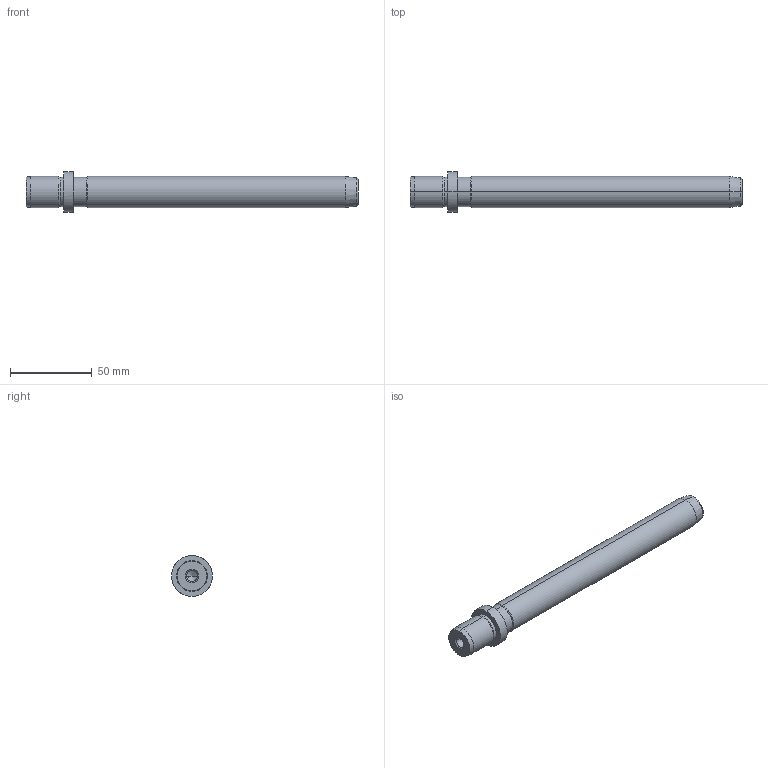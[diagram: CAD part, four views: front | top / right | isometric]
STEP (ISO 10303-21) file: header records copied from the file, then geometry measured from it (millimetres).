
FILE_DESCRIPTION(('CATIA V5 STEP Exchange'),'2;1');
FILE_NAME('C:\Users\Utente\Desktop\IO LAVORO\3D X SITO CF\X SITO\718\718-19x180.stp','2021-01-02T15:34:56+00:00',('none'),('none'),'CATIA Version 5 Release 20 GA (IN-10)','CATIA V5 STEP AP203','none');
FILE_SCHEMA(('CONFIG_CONTROL_DESIGN'));
Length unit declared in the file: millimetre
Products named in the file (1): 718-19x180
Bounding box: 203 x 25 x 25 mm (x, y, z)
Volume: 56497.1 mm3; surface area: 14130.4 mm2
Topology: 1 solids, 1 shells, 36 faces, 100 edges, 66 vertices
Faces by surface type: cone 16, cylinder 14, plane 4, torus 2
Entity records: 1285 total; most frequent: CARTESIAN_POINT 356, ORIENTED_EDGE 192, DIRECTION 157, EDGE_CURVE 96, AXIS2_PLACEMENT_3D 92, VERTEX_POINT 66, CIRCLE 55, EDGE_LOOP 40
